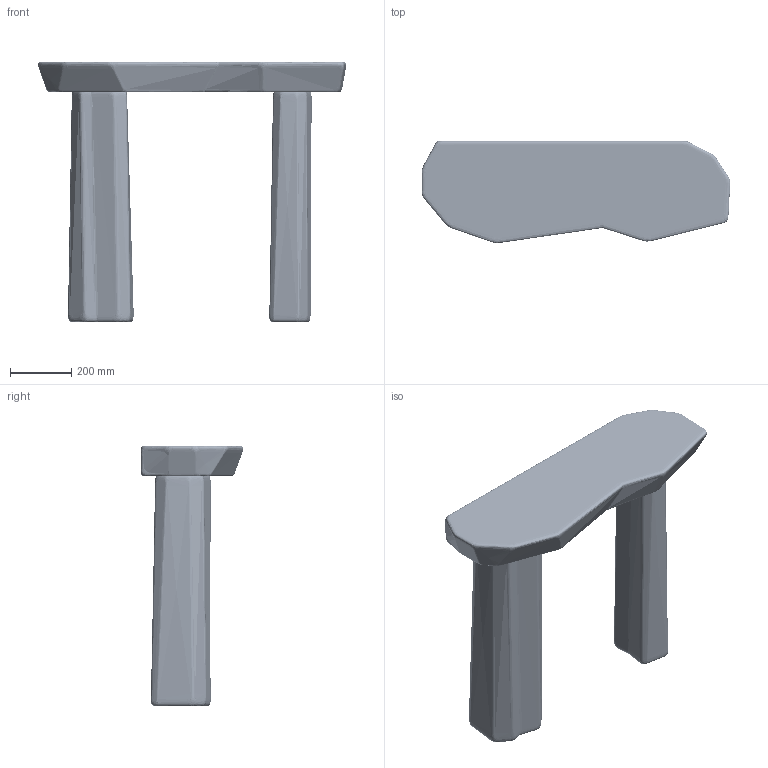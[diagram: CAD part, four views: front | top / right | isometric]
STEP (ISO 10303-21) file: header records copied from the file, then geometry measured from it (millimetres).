
FILE_DESCRIPTION(/* description */ (''),/* implementation_level */ '2;1');
FILE_NAME(/* name */ 'Staffa Console Table_3D',/* time_stamp */ '2024-09-03T16:10:11+02:00',/* author */ (''),/* organization */ (''),/* preprocessor_version */ 'ST-DEVELOPER v16.5',/* originating_system */ 'Rhino 7.37',/* authorisation */ '');
FILE_SCHEMA (('CONFIG_CONTROL_DESIGN'));
Products named in the file (1): Document
Bounding box: 1007.58 x 333.76 x 850.2 mm (x, y, z)
Volume: 37698851.6 mm3; surface area: 1969374.8 mm2
Topology: 23 solids, 32 shells, 2141 faces, 5801 edges, 3628 vertices
Faces by surface type: cylinder 1041, bspline 890, plane 210
Entity records: 196294 total; most frequent: CARTESIAN_POINT 160065, ORIENTED_EDGE 11343, EDGE_CURVE 5770, B_SPLINE_CURVE_WITH_KNOTS 4452, VERTEX_POINT 3629, EDGE_LOOP 2219, ADVANCED_FACE 2141, FACE_OUTER_BOUND 2141
